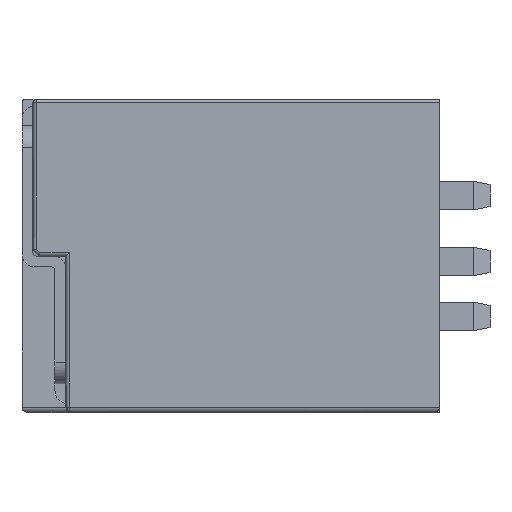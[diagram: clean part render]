
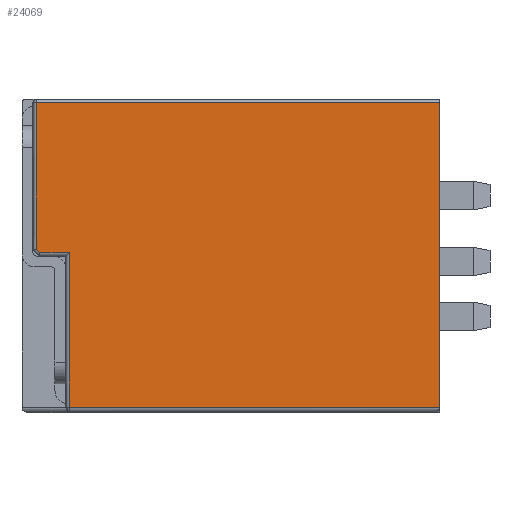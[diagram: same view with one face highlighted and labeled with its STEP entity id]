
A CAD part, left-side view. The second image highlights one B-rep face of the part: STEP entity #24069.
In plain terms, the highlighted planar face has unit normal (-1, 0, 0).
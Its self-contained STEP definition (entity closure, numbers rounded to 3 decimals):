
#150=DIRECTION('',(0.,0.,1.));
#151=VECTOR('',#150,14.05);
#152=CARTESIAN_POINT('',(-42.2,33.7,-13.75));
#153=LINE('',#152,#151);
#170=DIRECTION('',(0.,1.,0.));
#171=VECTOR('',#170,2.676);
#172=CARTESIAN_POINT('',(-42.2,33.7,0.3));
#173=LINE('',#172,#171);
#2875=CARTESIAN_POINT('',(-42.2,33.7,
-13.75));
#2881=DIRECTION('',(0.,1.,0.));
#2882=VECTOR('',#2881,33.7);
#2883=CARTESIAN_POINT('',(-42.2,0.,-13.75));
#2884=LINE('',#2883,#2882);
#2885=DIRECTION('',(0.,-0.707,-0.707));
#2886=VECTOR('',#2885,0.459);
#2887=CARTESIAN_POINT('',(-42.2,36.7,0.624));
#2888=LINE('',#2887,#2886);
#5918=DIRECTION('',(0.,0.,-1.));
#5919=VECTOR('',#5918,27.7);
#5920=CARTESIAN_POINT('',(-42.2,0.,13.95));
#5921=LINE('',#5920,#5919);
#11446=DIRECTION('',(0.,-1.,0.));
#11447=VECTOR('',#11446,36.7);
#11448=CARTESIAN_POINT('',(-42.2,36.7,13.95));
#11449=LINE('',#11448,#11447);
#11473=DIRECTION('',(0.,0.,1.));
#11474=VECTOR('',#11473,13.326);
#11475=CARTESIAN_POINT('',(-42.2,36.7,0.624));
#11476=LINE('',#11475,#11474);
#16002=VERTEX_POINT('',#2875);
#16003=CARTESIAN_POINT('',(-42.2,0.,-13.75));
#16004=VERTEX_POINT('',#16003);
#16028=CARTESIAN_POINT('',(-42.2,33.7,0.3));
#16029=VERTEX_POINT('',#16028);
#16030=CARTESIAN_POINT('',(-42.2,36.376,0.3));
#16031=VERTEX_POINT('',#16030);
#16032=CARTESIAN_POINT('',(-42.2,36.7,0.624));
#16033=VERTEX_POINT('',#16032);
#16034=CARTESIAN_POINT('',(-42.2,36.7,13.95));
#16035=VERTEX_POINT('',#16034);
#16036=CARTESIAN_POINT('',(-42.2,0.,13.95));
#16037=VERTEX_POINT('',#16036);
#24051=CARTESIAN_POINT('',(-42.2,18.35,0.1));
#24052=DIRECTION('',(1.,0.,0.));
#24053=DIRECTION('',(0.,0.,1.));
#24054=AXIS2_PLACEMENT_3D('',#24051,#24052,#24053);
#24055=PLANE('',#24054);
#24056=ORIENTED_EDGE('',*,*,#24044,.T.);
#24057=ORIENTED_EDGE('',*,*,#19878,.T.);
#24058=ORIENTED_EDGE('',*,*,#19895,.T.);
#24060=ORIENTED_EDGE('',*,*,#24059,.F.);
#24062=ORIENTED_EDGE('',*,*,#24061,.T.);
#24064=ORIENTED_EDGE('',*,*,#24063,.T.);
#24066=ORIENTED_EDGE('',*,*,#24065,.T.);
#24067=EDGE_LOOP('',(#24056,#24057,#24058,#24060,#24062,#24064,#24066));
#24068=FACE_OUTER_BOUND('',#24067,.F.);
#24069=ADVANCED_FACE('',(#24068),#24055,.F.);
#19878=EDGE_CURVE('',#16002,#16029,#153,.T.);
#19895=EDGE_CURVE('',#16029,#16031,#173,.T.);
#24044=EDGE_CURVE('',#16004,#16002,#2884,.T.);
#24059=EDGE_CURVE('',#16033,#16031,#2888,.T.);
#24061=EDGE_CURVE('',#16033,#16035,#11476,.T.);
#24063=EDGE_CURVE('',#16035,#16037,#11449,.T.);
#24065=EDGE_CURVE('',#16037,#16004,#5921,.T.);
